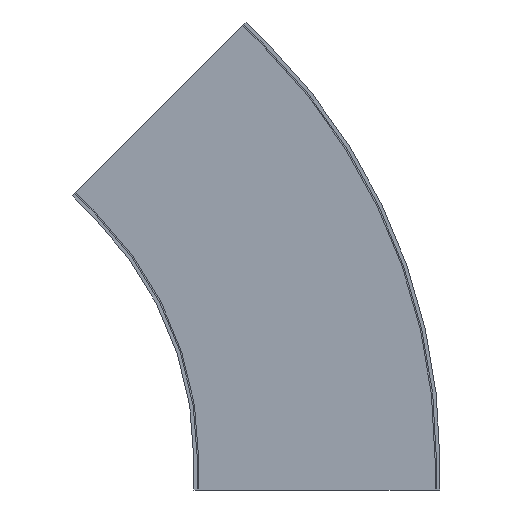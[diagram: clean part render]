
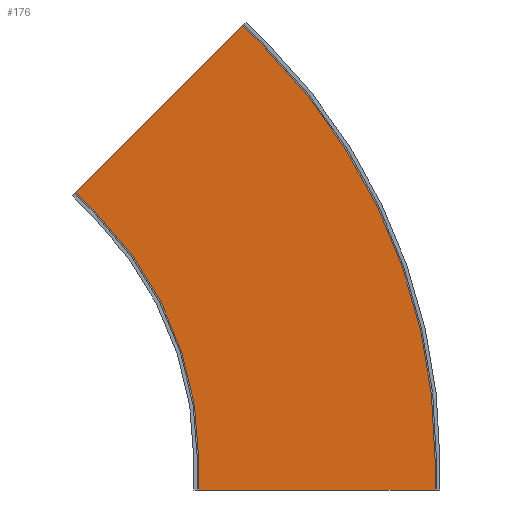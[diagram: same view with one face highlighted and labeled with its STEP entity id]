
A CAD part, front view. The second image highlights one B-rep face of the part: STEP entity #176.
In plain terms, the highlighted planar face has unit normal (0, -1, 0).
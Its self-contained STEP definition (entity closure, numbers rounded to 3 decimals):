
#4 = CARTESIAN_POINT ( 'NONE',  ( 672.246, -68.25, 746.493 ) ) ;
#35 = DIRECTION ( 'NONE',  ( -1., 0., 0. ) ) ;
#54 = DIRECTION ( 'NONE',  ( 0., 1., 0. ) ) ;
#149 = CARTESIAN_POINT ( 'NONE',  ( 0., -68.25, -52.5 ) ) ;
#151 = EDGE_CURVE ( 'NONE', #1577, #1190, #751, .T. ) ;
#166 = VECTOR ( 'NONE', #1908, 1000. ) ;
#176 = ADVANCED_FACE ( 'NONE', ( #675 ), #1782, .F. ) ;
#184 = CARTESIAN_POINT ( 'NONE',  ( 422.001, -68.25, 422.001 ) ) ;
#192 = CARTESIAN_POINT ( 'NONE',  ( 596.8, -68.25, 0. ) ) ;
#198 = VECTOR ( 'NONE', #1466, 1000. ) ;
#227 = VECTOR ( 'NONE', #1198, 1000. ) ;
#235 = CARTESIAN_POINT ( 'NONE',  ( 1003.2, -68.25, 0. ) ) ;
#259 = ORIENTED_EDGE ( 'NONE', *, *, #1681, .F. ) ;
#298 = AXIS2_PLACEMENT_3D ( 'NONE', #1978, #54, #35 ) ;
#396 = EDGE_CURVE ( 'NONE', #1811, #1883, #994, .T. ) ;
#553 = VECTOR ( 'NONE', #1111, 1000. ) ;
#596 = VERTEX_POINT ( 'NONE', #192 ) ;
#607 = DIRECTION ( 'NONE',  ( -1., 0., 0. ) ) ;
#609 = CARTESIAN_POINT ( 'NONE',  ( 596.8, -68.25, -52.5 ) ) ;
#675 = FACE_OUTER_BOUND ( 'NONE', #1749, .T. ) ;
#738 = DIRECTION ( 'NONE',  ( 0.707, 0., -0.707 ) ) ;
#742 = VERTEX_POINT ( 'NONE', #1011 ) ;
#751 = CIRCLE ( 'NONE', #298, 1003.2 ) ;
#765 = EDGE_CURVE ( 'NONE', #1883, #596, #1927, .T. ) ;
#791 = ORIENTED_EDGE ( 'NONE', *, *, #151, .F. ) ;
#795 = DIRECTION ( 'NONE',  ( 0., 1., 0. ) ) ;
#894 = EDGE_CURVE ( 'NONE', #1811, #1190, #1178, .T. ) ;
#959 = ORIENTED_EDGE ( 'NONE', *, *, #894, .T. ) ;
#994 = LINE ( 'NONE', #149, #198 ) ;
#1011 = CARTESIAN_POINT ( 'NONE',  ( 672.246, -68.25, 746.493 ) ) ;
#1033 = VECTOR ( 'NONE', #738, 1000. ) ;
#1055 = AXIS2_PLACEMENT_3D ( 'NONE', #1753, #1179, #607 ) ;
#1057 = EDGE_CURVE ( 'NONE', #742, #1577, #1065, .T. ) ;
#1065 = LINE ( 'NONE', #4, #1033 ) ;
#1111 = DIRECTION ( 'NONE',  ( 0., 0., 1. ) ) ;
#1113 = ORIENTED_EDGE ( 'NONE', *, *, #1057, .F. ) ;
#1150 = CARTESIAN_POINT ( 'NONE',  ( 709.37, -68.25, 709.37 ) ) ;
#1173 = EDGE_CURVE ( 'NONE', #1788, #2301, #1595, .T. ) ;
#1178 = LINE ( 'NONE', #1302, #553 ) ;
#1179 = DIRECTION ( 'NONE',  ( 0., 1., 0. ) ) ;
#1190 = VERTEX_POINT ( 'NONE', #235 ) ;
#1198 = DIRECTION ( 'NONE',  ( 0., 0., 1. ) ) ;
#1216 = CARTESIAN_POINT ( 'NONE',  ( 1003.2, -68.25, -52.5 ) ) ;
#1302 = CARTESIAN_POINT ( 'NONE',  ( 1003.2, -68.25, -52.5 ) ) ;
#1380 = CARTESIAN_POINT ( 'NONE',  ( 384.878, -68.25, 459.124 ) ) ;
#1411 = AXIS2_PLACEMENT_3D ( 'NONE', #1945, #795, #2142 ) ;
#1466 = DIRECTION ( 'NONE',  ( -1., 0., 0. ) ) ;
#1555 = CARTESIAN_POINT ( 'NONE',  ( 384.878, -68.25, 459.124 ) ) ;
#1577 = VERTEX_POINT ( 'NONE', #1150 ) ;
#1595 = LINE ( 'NONE', #1380, #2344 ) ;
#1652 = LINE ( 'NONE', #2477, #166 ) ;
#1681 = EDGE_CURVE ( 'NONE', #1788, #742, #1652, .T. ) ;
#1688 = CIRCLE ( 'NONE', #1055, 596.8 ) ;
#1690 = EDGE_CURVE ( 'NONE', #2301, #596, #1688, .T. ) ;
#1725 = CARTESIAN_POINT ( 'NONE',  ( 596.8, -68.25, -52.5 ) ) ;
#1749 = EDGE_LOOP ( 'NONE', ( #2237, #2245, #1909, #959, #791, #1113, #259, #1942 ) ) ;
#1753 = CARTESIAN_POINT ( 'NONE',  ( 0., -68.25, 0. ) ) ;
#1782 = PLANE ( 'NONE',  #1411 ) ;
#1788 = VERTEX_POINT ( 'NONE', #1555 ) ;
#1811 = VERTEX_POINT ( 'NONE', #1216 ) ;
#1883 = VERTEX_POINT ( 'NONE', #1725 ) ;
#1908 = DIRECTION ( 'NONE',  ( 0.707, 0., 0.707 ) ) ;
#1909 = ORIENTED_EDGE ( 'NONE', *, *, #396, .F. ) ;
#1927 = LINE ( 'NONE', #609, #227 ) ;
#1935 = DIRECTION ( 'NONE',  ( 0.707, 0., -0.707 ) ) ;
#1942 = ORIENTED_EDGE ( 'NONE', *, *, #1173, .T. ) ;
#1945 = CARTESIAN_POINT ( 'NONE',  ( 422.001, -68.25, 422.001 ) ) ;
#1978 = CARTESIAN_POINT ( 'NONE',  ( 0., -68.25, 0. ) ) ;
#2142 = DIRECTION ( 'NONE',  ( -1., 0., 0. ) ) ;
#2237 = ORIENTED_EDGE ( 'NONE', *, *, #1690, .T. ) ;
#2245 = ORIENTED_EDGE ( 'NONE', *, *, #765, .F. ) ;
#2301 = VERTEX_POINT ( 'NONE', #184 ) ;
#2344 = VECTOR ( 'NONE', #1935, 1000. ) ;
#2477 = CARTESIAN_POINT ( 'NONE',  ( -37.123, -68.25, 37.123 ) ) ;
